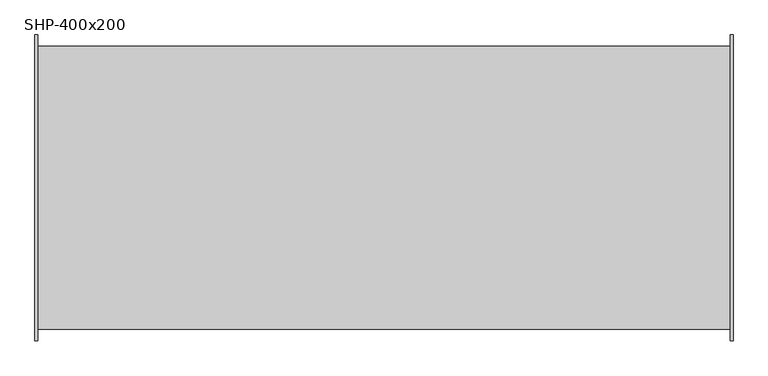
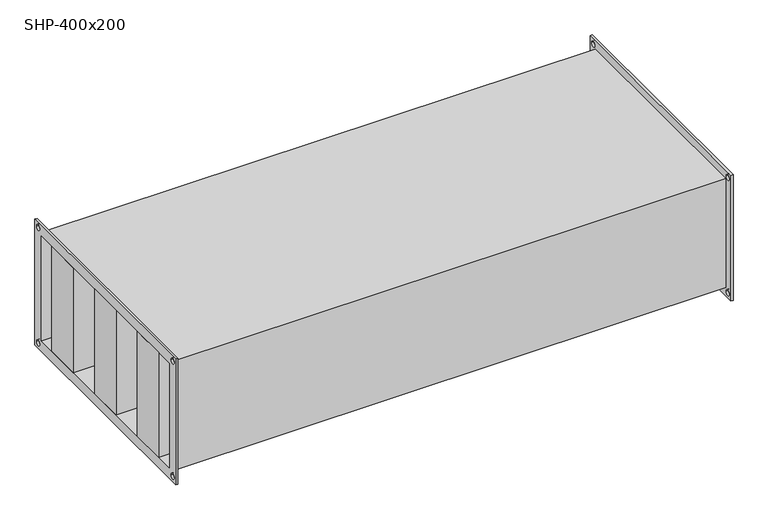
"""IFC4 building model written with IfcOpenShell, lengths in millimetres: damper geometry, СВ_Шумоглушитель_КанальныйПрямоугольный_200-1000_SHP : SHP-400x200."""

from ifc_helpers import new_model, si_unit, frame, origin, place, context, project, spatial, polyline, circle_curve, outline, extrude, source, transform, mapped, element, save
from ifc_brep_helpers import plane_surface, revolved_surface, advanced_brep


def shp_400x200_077cb804(model_context):
    return source(origin(), model_context, "Body", "SolidModel", [
        extrude(outline(polyline([(502.5, 166.6666667), (502.5, 100.0), (-502.5, 100.0), (-502.5, 166.6666667), (502.5, 166.6666667)])), frame((0.0, 0.0, -100.0), z_axis=(0.0, 0.0, 1.0), x_axis=(1.0, 0.0, 0.0)), (0.0, 0.0, 1.0), 200.0),
        extrude(outline(polyline([(502.5, 33.3333333), (502.5, -33.3333333), (-502.5, -33.3333333), (-502.5, 33.3333333), (502.5, 33.3333333)])), frame((0.0, 0.0, -100.0), z_axis=(0.0, 0.0, 1.0), x_axis=(1.0, 0.0, 0.0)), (0.0, 0.0, 1.0), 200.0),
        extrude(outline(polyline([(502.5, -100.0), (502.5, -166.6666667), (-502.5, -166.6666667), (-502.5, -100.0), (502.5, -100.0)])), frame((0.0, 0.0, -100.0), z_axis=(0.0, 0.0, 1.0), x_axis=(1.0, 0.0, 0.0)), (0.0, 0.0, 1.0), 200.0),
        advanced_brep(
        [(498.5, -204.0, 104.0), (-498.5, -204.0, 104.0), (-498.5, -204.0, -104.0), (498.5, -204.0, -104.0), (-498.5, 204.0, -104.0), (498.5, 204.0, -104.0), (-498.5, 204.0, 104.0), (498.5, 204.0, 104.0), (-502.5, -220.0, 120.0), (-502.5, 220.0, 120.0), (-502.5, 220.0, -120.0), (-502.5, -220.0, -120.0), (-502.5, -200.0, 100.0), (-502.5, -200.0, -100.0), (-502.5, 200.0, -100.0), (-502.5, 200.0, 100.0), (-502.5, 205.0, 110.0), (-502.5, 215.0, 110.0), (-502.5, -215.0, 110.0), (-502.5, -205.0, 110.0), (-502.5, -215.0, -110.0), (-502.5, -205.0, -110.0), (-502.5, 205.0, -110.0), (-502.5, 215.0, -110.0), (-498.5, -220.0, 120.0), (-498.5, -220.0, -120.0), (-498.5, 220.0, -120.0), (-498.5, 220.0, 120.0), (-498.5, 215.0, 110.0), (-498.5, 205.0, 110.0), (-498.5, -205.0, 110.0), (-498.5, -215.0, 110.0), (-498.5, -205.0, -110.0), (-498.5, -215.0, -110.0), (-498.5, 215.0, -110.0), (-498.5, 205.0, -110.0), (498.5, 220.0, 120.0), (498.5, 220.0, -120.0), (498.5, -220.0, -120.0), (498.5, -220.0, 120.0), (498.5, 205.0, 110.0), (498.5, 215.0, 110.0), (498.5, -215.0, 110.0), (498.5, -205.0, 110.0), (498.5, -215.0, -110.0), (498.5, -205.0, -110.0), (498.5, 205.0, -110.0), (498.5, 215.0, -110.0), (502.5, 220.0, 120.0), (502.5, -220.0, 120.0), (502.5, -220.0, -120.0), (502.5, 220.0, -120.0), (502.5, 200.0, 100.0), (502.5, 200.0, -100.0), (502.5, -200.0, -100.0), (502.5, -200.0, 100.0), (502.5, 215.0, 110.0), (502.5, 205.0, 110.0), (502.5, -205.0, 110.0), (502.5, -215.0, 110.0), (502.5, -205.0, -110.0), (502.5, -215.0, -110.0), (502.5, 215.0, -110.0), (502.5, 205.0, -110.0)],
        [
            (0, 1),
            (1, 2),
            (2, 3),
            (3, 0),
            (2, 4),
            (4, 5),
            (5, 3),
            (4, 6),
            (6, 7),
            (7, 5),
            (0, 7),
            (6, 1),
            (8, 9),
            (9, 10),
            (10, 11),
            (11, 8),
            (12, 13),
            (13, 14),
            (14, 15),
            (15, 12),
            (16, 17, circle_curve(frame((-502.5, 210.0, 110.0), z_axis=(1.0, 0.0, 0.0), x_axis=(0.0, 1.0, 0.0)), 5.0)),
            (17, 16, circle_curve(frame((-502.5, 210.0, 110.0), z_axis=(1.0, 0.0, 0.0), x_axis=(0.0, 1.0, 0.0)), 5.0)),
            (18, 19, circle_curve(frame((-502.5, -210.0, 110.0), z_axis=(1.0, 0.0, 0.0), x_axis=(0.0, 1.0, 0.0)), 5.0)),
            (19, 18, circle_curve(frame((-502.5, -210.0, 110.0), z_axis=(1.0, 0.0, 0.0), x_axis=(0.0, 1.0, 0.0)), 5.0)),
            (20, 21, circle_curve(frame((-502.5, -210.0, -110.0), z_axis=(1.0, 0.0, 0.0), x_axis=(0.0, 1.0, 0.0)), 5.0)),
            (21, 20, circle_curve(frame((-502.5, -210.0, -110.0), z_axis=(1.0, 0.0, 0.0), x_axis=(0.0, 1.0, 0.0)), 5.0)),
            (22, 23, circle_curve(frame((-502.5, 210.0, -110.0), z_axis=(1.0, 0.0, 0.0), x_axis=(0.0, 1.0, 0.0)), 5.0)),
            (23, 22, circle_curve(frame((-502.5, 210.0, -110.0), z_axis=(1.0, 0.0, 0.0), x_axis=(0.0, 1.0, 0.0)), 5.0)),
            (24, 25),
            (25, 26),
            (26, 27),
            (27, 24),
            (28, 29, circle_curve(frame((-498.5, 210.0, 110.0), z_axis=(-1.0, 0.0, 0.0), x_axis=(0.0, 1.0, 0.0)), 5.0)),
            (29, 28, circle_curve(frame((-498.5, 210.0, 110.0), z_axis=(-1.0, 0.0, 0.0), x_axis=(0.0, 1.0, 0.0)), 5.0)),
            (30, 31, circle_curve(frame((-498.5, -210.0, 110.0), z_axis=(-1.0, 0.0, 0.0), x_axis=(0.0, 1.0, 0.0)), 5.0)),
            (31, 30, circle_curve(frame((-498.5, -210.0, 110.0), z_axis=(-1.0, 0.0, 0.0), x_axis=(0.0, 1.0, 0.0)), 5.0)),
            (32, 33, circle_curve(frame((-498.5, -210.0, -110.0), z_axis=(-1.0, 0.0, 0.0), x_axis=(0.0, 1.0, 0.0)), 5.0)),
            (33, 32, circle_curve(frame((-498.5, -210.0, -110.0), z_axis=(-1.0, 0.0, 0.0), x_axis=(0.0, 1.0, 0.0)), 5.0)),
            (34, 35, circle_curve(frame((-498.5, 210.0, -110.0), z_axis=(-1.0, 0.0, 0.0), x_axis=(0.0, 1.0, 0.0)), 5.0)),
            (35, 34, circle_curve(frame((-498.5, 210.0, -110.0), z_axis=(-1.0, 0.0, 0.0), x_axis=(0.0, 1.0, 0.0)), 5.0)),
            (11, 25),
            (24, 8),
            (10, 26),
            (9, 27),
            (36, 37),
            (37, 38),
            (38, 39),
            (39, 36),
            (40, 41, circle_curve(frame((498.5, 210.0, 110.0), z_axis=(1.0, 0.0, 0.0), x_axis=(0.0, 1.0, 0.0)), 5.0)),
            (41, 40, circle_curve(frame((498.5, 210.0, 110.0), z_axis=(1.0, 0.0, 0.0), x_axis=(0.0, 1.0, 0.0)), 5.0)),
            (42, 43, circle_curve(frame((498.5, -210.0, 110.0), z_axis=(1.0, 0.0, 0.0), x_axis=(0.0, 1.0, 0.0)), 5.0)),
            (43, 42, circle_curve(frame((498.5, -210.0, 110.0), z_axis=(1.0, 0.0, 0.0), x_axis=(0.0, 1.0, 0.0)), 5.0)),
            (44, 45, circle_curve(frame((498.5, -210.0, -110.0), z_axis=(1.0, 0.0, 0.0), x_axis=(0.0, 1.0, 0.0)), 5.0)),
            (45, 44, circle_curve(frame((498.5, -210.0, -110.0), z_axis=(1.0, 0.0, 0.0), x_axis=(0.0, 1.0, 0.0)), 5.0)),
            (46, 47, circle_curve(frame((498.5, 210.0, -110.0), z_axis=(1.0, 0.0, 0.0), x_axis=(0.0, 1.0, 0.0)), 5.0)),
            (47, 46, circle_curve(frame((498.5, 210.0, -110.0), z_axis=(1.0, 0.0, 0.0), x_axis=(0.0, 1.0, 0.0)), 5.0)),
            (48, 49),
            (49, 50),
            (50, 51),
            (51, 48),
            (52, 53),
            (53, 54),
            (54, 55),
            (55, 52),
            (56, 57, circle_curve(frame((502.5, 210.0, 110.0), z_axis=(-1.0, 0.0, 0.0), x_axis=(0.0, 1.0, 0.0)), 5.0)),
            (57, 56, circle_curve(frame((502.5, 210.0, 110.0), z_axis=(-1.0, 0.0, 0.0), x_axis=(0.0, 1.0, 0.0)), 5.0)),
            (58, 59, circle_curve(frame((502.5, -210.0, 110.0), z_axis=(-1.0, 0.0, 0.0), x_axis=(0.0, 1.0, 0.0)), 5.0)),
            (59, 58, circle_curve(frame((502.5, -210.0, 110.0), z_axis=(-1.0, 0.0, 0.0), x_axis=(0.0, 1.0, 0.0)), 5.0)),
            (60, 61, circle_curve(frame((502.5, -210.0, -110.0), z_axis=(-1.0, 0.0, 0.0), x_axis=(0.0, 1.0, 0.0)), 5.0)),
            (61, 60, circle_curve(frame((502.5, -210.0, -110.0), z_axis=(-1.0, 0.0, 0.0), x_axis=(0.0, 1.0, 0.0)), 5.0)),
            (62, 63, circle_curve(frame((502.5, 210.0, -110.0), z_axis=(-1.0, 0.0, 0.0), x_axis=(0.0, 1.0, 0.0)), 5.0)),
            (63, 62, circle_curve(frame((502.5, 210.0, -110.0), z_axis=(-1.0, 0.0, 0.0), x_axis=(0.0, 1.0, 0.0)), 5.0)),
            (39, 49),
            (48, 36),
            (38, 50),
            (37, 51),
            (15, 52),
            (55, 12),
            (14, 53),
            (13, 54),
            (16, 29),
            (28, 17),
            (40, 57),
            (56, 41),
            (18, 31),
            (30, 19),
            (42, 59),
            (58, 43),
            (20, 33),
            (32, 21),
            (44, 61),
            (60, 45),
            (22, 35),
            (34, 23),
            (46, 63),
            (62, 47),
        ],
        [
            plane_surface(frame((498.5, -204.0, 104.0), z_axis=(0.0, -1.0, 0.0), x_axis=(-1.0, 0.0, 0.0))),
            plane_surface(frame((498.5, -204.0, -104.0), z_axis=(0.0, 0.0, -1.0), x_axis=(-1.0, 0.0, 0.0))),
            plane_surface(frame((498.5, 204.0, -104.0), z_axis=(0.0, 1.0, 0.0), x_axis=(-1.0, 0.0, 0.0))),
            plane_surface(frame((498.5, 204.0, 104.0), z_axis=(0.0, 0.0, 1.0), x_axis=(-1.0, 0.0, 0.0))),
            plane_surface(frame((-502.5, -220.0, 120.0), z_axis=(-1.0, 0.0, 0.0), x_axis=(0.0, 0.0, 1.0))),
            plane_surface(frame((-498.5, -220.0, 120.0), z_axis=(1.0, 0.0, 0.0), x_axis=(0.0, 0.0, -1.0))),
            plane_surface(frame((-498.5, -220.0, 120.0), z_axis=(0.0, -1.0, 0.0), x_axis=(-1.0, 0.0, 0.0))),
            plane_surface(frame((-498.5, -220.0, -120.0), z_axis=(0.0, 0.0, -1.0), x_axis=(-1.0, 0.0, 0.0))),
            plane_surface(frame((-498.5, 220.0, -120.0), z_axis=(0.0, 1.0, 0.0), x_axis=(-1.0, 0.0, 0.0))),
            plane_surface(frame((-498.5, 220.0, 120.0), z_axis=(0.0, 0.0, 1.0), x_axis=(-1.0, 0.0, 0.0))),
            plane_surface(frame((498.5, 200.0, -100.0), z_axis=(-1.0, 0.0, 0.0), x_axis=(0.0, 0.0, 1.0))),
            plane_surface(frame((502.5, 200.0, -100.0), z_axis=(1.0, 0.0, 0.0), x_axis=(0.0, 0.0, -1.0))),
            plane_surface(frame((502.5, 220.0, 120.0), z_axis=(0.0, 0.0, 1.0), x_axis=(-1.0, 0.0, 0.0))),
            plane_surface(frame((502.5, -220.0, 120.0), z_axis=(0.0, -1.0, 0.0), x_axis=(-1.0, 0.0, 0.0))),
            plane_surface(frame((502.5, -220.0, -120.0), z_axis=(0.0, 0.0, -1.0), x_axis=(-1.0, 0.0, 0.0))),
            plane_surface(frame((502.5, 220.0, -120.0), z_axis=(0.0, 1.0, 0.0), x_axis=(-1.0, 0.0, 0.0))),
            plane_surface(frame((-498.5, -200.0, 100.0), z_axis=(0.0, 0.0, -1.0), x_axis=(-1.0, 0.0, 0.0))),
            plane_surface(frame((-498.5, 200.0, 100.0), z_axis=(0.0, -1.0, 0.0), x_axis=(-1.0, 0.0, 0.0))),
            plane_surface(frame((-498.5, 200.0, -100.0), z_axis=(0.0, 0.0, 1.0), x_axis=(-1.0, 0.0, 0.0))),
            plane_surface(frame((-498.5, -200.0, -100.0), z_axis=(0.0, 1.0, 0.0), x_axis=(-1.0, 0.0, 0.0))),
            revolved_surface(polyline([(-498.5, 215.0, 110.0), (-502.5, 215.0, 110.0)]), (-502.5, 210.0, 110.0), (1.0, 0.0, 0.0)),
            revolved_surface(polyline([(502.5, 215.0, 110.0), (498.5, 215.0, 110.0)]), (-502.5, 210.0, 110.0), (1.0, 0.0, 0.0)),
            revolved_surface(polyline([(-498.5, -205.0, 110.0), (-502.5, -205.0, 110.0)]), (0.0, -210.0, 110.0), (1.0, 0.0, 0.0)),
            revolved_surface(polyline([(502.5, -205.0, 110.0), (498.5, -205.0, 110.0)]), (0.0, -210.0, 110.0), (1.0, 0.0, 0.0)),
            revolved_surface(polyline([(-498.5, -205.0, -110.0), (-502.5, -205.0, -110.0)]), (0.0, -210.0, -110.0), (1.0, 0.0, 0.0)),
            revolved_surface(polyline([(502.5, -205.0, -110.0), (498.5, -205.0, -110.0)]), (0.0, -210.0, -110.0), (1.0, 0.0, 0.0)),
            revolved_surface(polyline([(-498.5, 215.0, -110.0), (-502.5, 215.0, -110.0)]), (0.0, 210.0, -110.0), (1.0, 0.0, 0.0)),
            revolved_surface(polyline([(502.5, 215.0, -110.0), (498.5, 215.0, -110.0)]), (0.0, 210.0, -110.0), (1.0, 0.0, 0.0)),
        ],
        [
            (0, [[1, 2, 3, 4]]),
            (1, [[-3, 5, 6, 7]]),
            (2, [[-6, 8, 9, 10]]),
            (3, [[-1, 11, -9, 12]]),
            (4, [[13, 14, 15, 16], [17, 18, 19, 20], [21, 22], [23, 24], [25, 26], [27, 28]]),
            (5, [[29, 30, 31, 32], [-2, -12, -8, -5], [33, 34], [35, 36], [37, 38], [39, 40]]),
            (6, [[-16, 41, -29, 42]]),
            (7, [[-15, 43, -30, -41]]),
            (8, [[-14, 44, -31, -43]]),
            (9, [[-13, -42, -32, -44]]),
            (10, [[45, 46, 47, 48], [-4, -7, -10, -11], [49, 50], [51, 52], [53, 54], [55, 56]]),
            (11, [[57, 58, 59, 60], [61, 62, 63, 64], [65, 66], [67, 68], [69, 70], [71, 72]]),
            (12, [[-48, 73, -57, 74]]),
            (13, [[-47, 75, -58, -73]]),
            (14, [[-46, 76, -59, -75]]),
            (15, [[-45, -74, -60, -76]]),
            (16, [[-20, 77, -64, 78]]),
            (17, [[-77, -19, 79, -61]]),
            (18, [[-79, -18, 80, -62]]),
            (19, [[-80, -17, -78, -63]]),
            (20, [[81, -33, 82, -21]]),
            (21, [[83, -65, 84, -49]]),
            (20, [[-81, -22, -82, -34]]),
            (21, [[-83, -50, -84, -66]]),
            (22, [[85, -35, 86, -23]]),
            (23, [[87, -67, 88, -51]]),
            (22, [[-85, -24, -86, -36]]),
            (23, [[-87, -52, -88, -68]]),
            (24, [[89, -37, 90, -25]]),
            (25, [[91, -69, 92, -53]]),
            (24, [[-89, -26, -90, -38]]),
            (25, [[-91, -54, -92, -70]]),
            (26, [[93, -39, 94, -27]]),
            (27, [[95, -71, 96, -55]]),
            (26, [[-93, -28, -94, -40]]),
            (27, [[-95, -56, -96, -72]]),
        ],
    ),
    ])


if __name__ == "__main__":
    model = new_model("IFC4")
    model_context = context("Model", 3, world=origin())
    ifc_project = project(units=[si_unit("LENGTHUNIT", "METRE", prefix="MILLI")], contexts=[model_context])
    site = spatial("IfcSite", under=ifc_project)
    building = spatial("IfcBuilding", under=site)
    placement = place(None, origin())
    shp_400x200_shape = shp_400x200_077cb804(model_context)
    element("IfcDamper", 1, ObjectType="СВ_Шумоглушитель_КанальныйПрямоугольный_200-1000_SHP : SHP-400x200", at=placement, inside=building, context=model_context, shape_type="MappedRepresentation", body=[
        mapped(shp_400x200_shape, transform((0.0, 0.0, 0.0), x_axis=(1.0, 0.0, 0.0), y_axis=(0.0, 1.0, 0.0), z_axis=(0.0, 0.0, 1.0))),
    ])
    save(model, "model.ifc")
